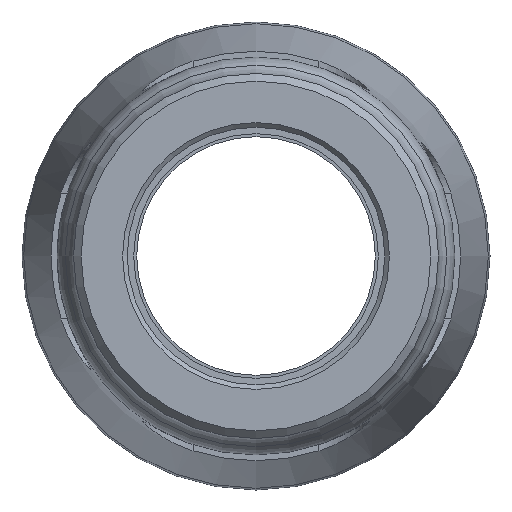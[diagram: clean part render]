
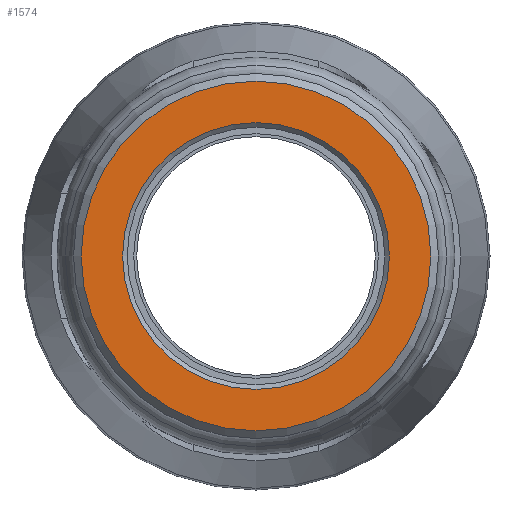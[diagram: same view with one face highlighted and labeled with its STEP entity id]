
A CAD part, left-side view. The second image highlights one B-rep face of the part: STEP entity #1574.
In plain terms, the highlighted planar face has unit normal (-1, 0, 0).
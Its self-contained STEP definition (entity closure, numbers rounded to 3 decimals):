
#24=FACE_BOUND('',#401,.T.);
#56=PLANE('',#1725);
#292=FACE_OUTER_BOUND('',#400,.T.);
#400=EDGE_LOOP('',(#1156));
#401=EDGE_LOOP('',(#1157));
#544=CIRCLE('',#1724,29.358);
#545=CIRCLE('',#1726,38.47);
#715=VERTEX_POINT('',#2832);
#716=VERTEX_POINT('',#2835);
#886=EDGE_CURVE('',#715,#715,#544,.T.);
#887=EDGE_CURVE('',#716,#716,#545,.T.);
#1156=ORIENTED_EDGE('',*,*,#887,.F.);
#1157=ORIENTED_EDGE('',*,*,#886,.F.);
#1574=ADVANCED_FACE('',(#292,#24),#56,.T.);
#1724=AXIS2_PLACEMENT_3D('',#2833,#2005,#2006);
#1725=AXIS2_PLACEMENT_3D('',#2834,#2007,#2008);
#1726=AXIS2_PLACEMENT_3D('',#2836,#2009,#2010);
#2005=DIRECTION('center_axis',(-1.,0.,0.));
#2006=DIRECTION('ref_axis',(0.,-1.,0.));
#2007=DIRECTION('center_axis',(-1.,0.,0.));
#2008=DIRECTION('ref_axis',(0.,0.,1.));
#2009=DIRECTION('center_axis',(1.,0.,0.));
#2010=DIRECTION('ref_axis',(0.,-1.,0.));
#2832=CARTESIAN_POINT('',(0.,29.358,0.));
#2833=CARTESIAN_POINT('Origin',(0.,0.,0.));
#2834=CARTESIAN_POINT('Origin',(0.,40.17,0.));
#2835=CARTESIAN_POINT('',(0.,38.47,0.));
#2836=CARTESIAN_POINT('Origin',(0.,0.,0.));
